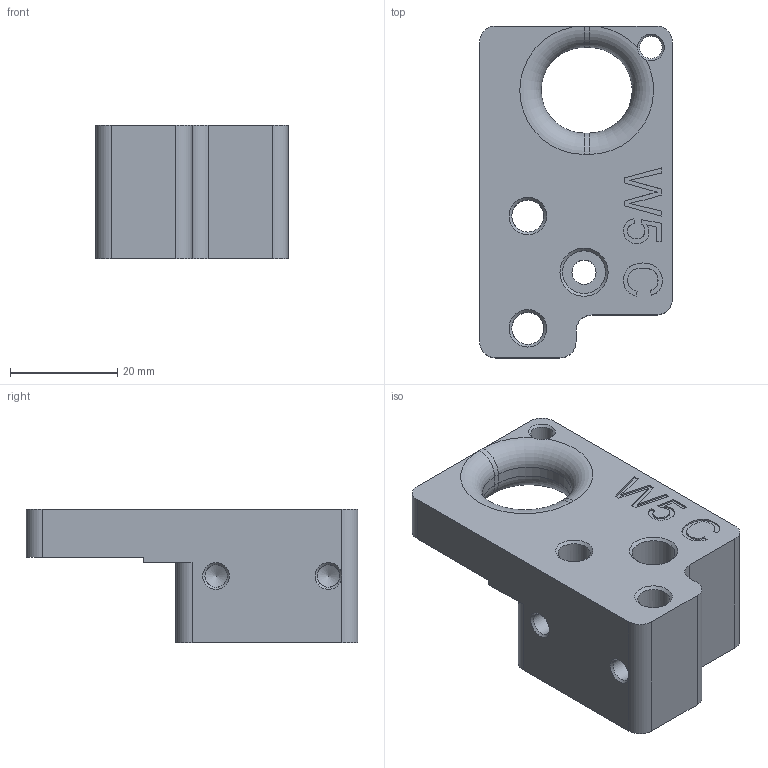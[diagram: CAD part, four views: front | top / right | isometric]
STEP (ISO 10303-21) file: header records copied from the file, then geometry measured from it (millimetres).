
FILE_DESCRIPTION(/* description */ (''),/* implementation_level */ '2;1');
FILE_NAME(/* name */ 'WHEELS-INSERT.04.stp',/* time_stamp */ '2018-05-25T14:07:51+02:00',/* author */ (''),/* organization */ (''),/* preprocessor_version */ 'ST-DEVELOPER v16.7',/* originating_system */ 'SIEMENS PLM Software NX 12.0',/* authorisation */ '');
FILE_SCHEMA (('AP203_CONFIGURATION_CONTROLLED_3D_DESIGN_OF_MECHANICAL_PARTS_AND_ASSEMBLIES_MIM_LF { 1 0 10303 403 2 1 2}'));
Length unit declared in the file: millimetre
Products named in the file (1): turc66A81BAD9zbq
Bounding box: 36 x 62 x 25 mm (x, y, z)
Volume: 31485.4 mm3; surface area: 9347.1 mm2
Topology: 1 solids, 1 shells, 85 faces, 233 edges, 149 vertices
Faces by surface type: plane 34, cylinder 24, cone 11, extrusion 10, torus 6
Full cylindrical faces by diameter (mm): 4.2 x5, 4.5 x1, 6 x2, 8 x1
Entity records: 3168 total; most frequent: CARTESIAN_POINT 1108, ORIENTED_EDGE 400, DIRECTION 363, EDGE_CURVE 200, VERTEX_POINT 140, AXIS2_PLACEMENT_3D 136, EDGE_LOOP 120, VECTOR 91
